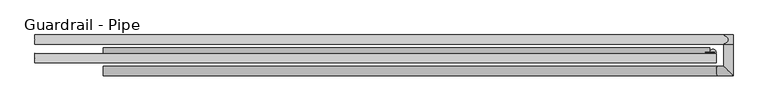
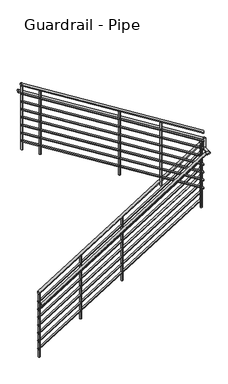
"""IFC4 building model written with IfcOpenShell, lengths in millimetres: railing geometry, Guardrail - Pipe."""

from ifc_helpers import new_model, si_unit, point, frame, frame_2d, origin, place, context, project, spatial, circle_curve, ellipse_curve, trimmed, segment, composite_curve, outline, extrude, faceted_brep, source, transform, mapped, element, save
from ifc_brep_helpers import plane_surface, cylinder_surface, advanced_brep


def guardrail_pipe_03ab10f1(model_context):
    return source(origin(), model_context, "Body", "SolidModel", [
        advanced_brep(
        [(-2631.8939612, 10554.0699505, 8533.7231361), (-2631.8939612, 10515.9699505, 8533.7231361), (-142.6939612, 10554.0699505, 10085.432227), (-142.6939612, 10515.9699505, 10085.432227)],
        [
            (0, 1, ellipse_curve(frame((-2631.8939612, 10535.0199505, 8533.7231361), z_axis=(-1.0, 0.0, 0.0), x_axis=(0.0, 0.0, -1.0)), 22.4482925, 19.05)),
            (1, 0, ellipse_curve(frame((-2631.8939612, 10535.0199505, 8533.7231361), z_axis=(-1.0, 0.0, 0.0), x_axis=(0.0, 0.0, -1.0)), 22.4482925, 19.05)),
            (2, 3, ellipse_curve(frame((-142.6939612, 10535.0199505, 10085.432227), z_axis=(1.0, 0.0, 0.0), x_axis=(0.0, 0.0, -1.0)), 22.4482925, 19.05)),
            (3, 2, ellipse_curve(frame((-142.6939612, 10535.0199505, 10085.432227), z_axis=(1.0, 0.0, 0.0), x_axis=(0.0, 0.0, -1.0)), 22.4482925, 19.05)),
            (0, 2),
            (3, 1),
        ],
        [
            plane_surface(frame((-2631.8939612, 10535.0199505, 8556.1714286), z_axis=(-1.0, 0.0, 0.0), x_axis=(0.0, 1.0, 0.0))),
            plane_surface(frame((-142.6939612, 10535.0199505, 10107.8805195), z_axis=(1.0, 0.0, 0.0), x_axis=(0.0, 1.0, 0.0))),
            cylinder_surface(frame((-2621.8163602, 10535.0199505, 8540.005277), z_axis=(-0.8486168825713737, 0.0, -0.5290079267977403), x_axis=(0.0, -1.0, 0.0)), 19.05),
        ],
        [
            (0, [[1, 2]]),
            (1, [[3, 4]]),
            (2, [[-1, 5, -4, 6]]),
            (2, [[-2, -6, -3, -5]]),
        ],
    ),
        advanced_brep(
        [(-161.7439612, 10535.0199505, 10104.6642857), (-123.6439612, 10535.0199505, 10104.6642857), (-161.7439612, 10536.659643, 10104.6642857), (-123.6439612, 10536.659643, 10104.6642857)],
        [
            (0, 1, circle_curve(frame((-142.6939612, 10535.0199505, 10104.6642857), z_axis=(0.0, -1.0, 0.0), x_axis=(1.0, 0.0, 0.0)), 19.05)),
            (1, 0, circle_curve(frame((-142.6939612, 10535.0199505, 10104.6642857), z_axis=(0.0, -1.0, 0.0), x_axis=(1.0, 0.0, 0.0)), 19.05)),
            (2, 3, circle_curve(frame((-142.6939612, 10536.659643, 10104.6642857), z_axis=(0.0, 1.0, 0.0), x_axis=(1.0, 0.0, 0.0)), 19.05)),
            (3, 2, circle_curve(frame((-142.6939612, 10536.659643, 10104.6642857), z_axis=(0.0, 1.0, 0.0), x_axis=(1.0, 0.0, 0.0)), 19.05)),
            (0, 2),
            (3, 1),
        ],
        [
            plane_surface(frame((-142.6939612, 10535.0199505, 10123.7142857), z_axis=(0.0, -1.0, 0.0), x_axis=(0.0, 0.0, 1.0))),
            plane_surface(frame((-142.6939612, 10536.659643, 10123.7142857), z_axis=(0.0, 1.0, 0.0), x_axis=(0.0, 0.0, 1.0))),
            cylinder_surface(frame((-142.6939612, 10535.0199505, 10104.6642857), z_axis=(0.0, -1.0, 0.0), x_axis=(1.0, 0.0, 0.0)), 19.05),
        ],
        [
            (0, [[1, 2]]),
            (1, [[3, 4]]),
            (2, [[-1, 5, -4, 6]]),
            (2, [[-2, -6, -3, -5]]),
        ],
    ),
        advanced_brep(
        [(-117.2939612, 10492.209643, 10275.4374218), (-117.2939612, 10530.309643, 10275.4374218), (-2911.2939612, 10492.209643, 12017.1517075), (-2911.2939612, 10530.309643, 12017.1517075)],
        [
            (0, 1, ellipse_curve(frame((-117.2939612, 10511.259643, 10275.4374218), z_axis=(1.0, 0.0, 0.0), x_axis=(0.0, 0.0, -1.0)), 22.4482925, 19.05)),
            (1, 0, ellipse_curve(frame((-117.2939612, 10511.259643, 10275.4374218), z_axis=(1.0, 0.0, 0.0), x_axis=(0.0, 0.0, -1.0)), 22.4482925, 19.05)),
            (2, 3, ellipse_curve(frame((-2911.2939612, 10511.259643, 12017.1517075), z_axis=(-1.0, 0.0, 0.0), x_axis=(0.0, 0.0, -1.0)), 22.4482925, 19.05)),
            (3, 2, ellipse_curve(frame((-2911.2939612, 10511.259643, 12017.1517075), z_axis=(-1.0, 0.0, 0.0), x_axis=(0.0, 0.0, -1.0)), 22.4482925, 19.05)),
            (0, 2),
            (3, 1),
        ],
        [
            plane_surface(frame((-117.2939612, 10511.259643, 10297.8857143), z_axis=(1.0, 0.0, 0.0), x_axis=(0.0, -1.0, 0.0))),
            plane_surface(frame((-2911.2939612, 10511.259643, 12039.6), z_axis=(-1.0, 0.0, 0.0), x_axis=(0.0, -1.0, 0.0))),
            cylinder_surface(frame((-127.3715622, 10511.259643, 10281.7195627), z_axis=(0.8486168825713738, 0.0, -0.5290079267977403), x_axis=(0.0, 1.0, 0.0)), 19.05),
        ],
        [
            (0, [[1, 2]]),
            (1, [[3, 4]]),
            (2, [[-1, 5, -4, 6]]),
            (2, [[-2, -6, -3, -5]]),
        ],
    ),
        advanced_brep(
        [(-2631.8939612, 10547.7199505, 8388.8059002), (-2631.8939612, 10522.3199505, 8388.8059002), (-142.6939612, 10547.7199505, 9940.5149911), (-142.6939612, 10522.3199505, 9940.5149911)],
        [
            (0, 1, ellipse_curve(frame((-2631.8939612, 10535.0199505, 8388.8059002), z_axis=(-1.0, 0.0, 0.0), x_axis=(0.0, 0.0, -1.0)), 14.9655283, 12.7)),
            (1, 0, ellipse_curve(frame((-2631.8939612, 10535.0199505, 8388.8059002), z_axis=(-1.0, 0.0, 0.0), x_axis=(0.0, 0.0, -1.0)), 14.9655283, 12.7)),
            (2, 3, ellipse_curve(frame((-142.6939612, 10535.0199505, 9940.5149911), z_axis=(1.0, 0.0, 0.0), x_axis=(0.0, 0.0, -1.0)), 14.9655283, 12.7)),
            (3, 2, ellipse_curve(frame((-142.6939612, 10535.0199505, 9940.5149911), z_axis=(1.0, 0.0, 0.0), x_axis=(0.0, 0.0, -1.0)), 14.9655283, 12.7)),
            (0, 2),
            (3, 1),
        ],
        [
            plane_surface(frame((-2631.8939612, 10535.0199505, 8403.7714286), z_axis=(-1.0, 0.0, 0.0), x_axis=(0.0, 1.0, 0.0))),
            plane_surface(frame((-142.6939612, 10535.0199505, 9955.4805195), z_axis=(1.0, 0.0, 0.0), x_axis=(0.0, 1.0, 0.0))),
            cylinder_surface(frame((-2625.1755605, 10535.0199505, 8392.9939942), z_axis=(-0.8486168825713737, 0.0, -0.5290079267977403), x_axis=(0.0, -1.0, 0.0)), 12.7),
        ],
        [
            (0, [[1, 2]]),
            (1, [[3, 4]]),
            (2, [[-1, 5, -4, 6]]),
            (2, [[-2, -6, -3, -5]]),
        ],
    ),
        advanced_brep(
        [(-155.3939612, 10535.0199505, 9958.6142857), (-129.9939612, 10535.0199505, 9958.6142857), (-155.3939612, 10536.659643, 9958.6142857), (-129.9939612, 10536.659643, 9958.6142857)],
        [
            (0, 1, circle_curve(frame((-142.6939612, 10535.0199505, 9958.6142857), z_axis=(0.0, -1.0, 0.0), x_axis=(1.0, 0.0, 0.0)), 12.7)),
            (1, 0, circle_curve(frame((-142.6939612, 10535.0199505, 9958.6142857), z_axis=(0.0, -1.0, 0.0), x_axis=(1.0, 0.0, 0.0)), 12.7)),
            (2, 3, circle_curve(frame((-142.6939612, 10536.659643, 9958.6142857), z_axis=(0.0, 1.0, 0.0), x_axis=(1.0, 0.0, 0.0)), 12.7)),
            (3, 2, circle_curve(frame((-142.6939612, 10536.659643, 9958.6142857), z_axis=(0.0, 1.0, 0.0), x_axis=(1.0, 0.0, 0.0)), 12.7)),
            (0, 2),
            (3, 1),
        ],
        [
            plane_surface(frame((-142.6939612, 10535.0199505, 9971.3142857), z_axis=(0.0, -1.0, 0.0), x_axis=(0.0, 0.0, 1.0))),
            plane_surface(frame((-142.6939612, 10536.659643, 9971.3142857), z_axis=(0.0, 1.0, 0.0), x_axis=(0.0, 0.0, 1.0))),
            cylinder_surface(frame((-142.6939612, 10535.0199505, 9958.6142857), z_axis=(0.0, -1.0, 0.0), x_axis=(1.0, 0.0, 0.0)), 12.7),
        ],
        [
            (0, [[1, 2]]),
            (1, [[3, 4]]),
            (2, [[-1, 5, -4, 6]]),
            (2, [[-2, -6, -3, -5]]),
        ],
    ),
        advanced_brep(
        [(-117.2939612, 10498.559643, 10130.520186), (-117.2939612, 10523.959643, 10130.520186), (-2911.2939612, 10498.559643, 11872.2344717), (-2911.2939612, 10523.959643, 11872.2344717)],
        [
            (0, 1, ellipse_curve(frame((-117.2939612, 10511.259643, 10130.520186), z_axis=(1.0, 0.0, 0.0), x_axis=(0.0, 0.0, -1.0)), 14.9655283, 12.7)),
            (1, 0, ellipse_curve(frame((-117.2939612, 10511.259643, 10130.520186), z_axis=(1.0, 0.0, 0.0), x_axis=(0.0, 0.0, -1.0)), 14.9655283, 12.7)),
            (2, 3, ellipse_curve(frame((-2911.2939612, 10511.259643, 11872.2344717), z_axis=(-1.0, 0.0, 0.0), x_axis=(0.0, 0.0, -1.0)), 14.9655283, 12.7)),
            (3, 2, ellipse_curve(frame((-2911.2939612, 10511.259643, 11872.2344717), z_axis=(-1.0, 0.0, 0.0), x_axis=(0.0, 0.0, -1.0)), 14.9655283, 12.7)),
            (0, 2),
            (3, 1),
        ],
        [
            plane_surface(frame((-117.2939612, 10511.259643, 10145.4857143), z_axis=(1.0, 0.0, 0.0), x_axis=(0.0, -1.0, 0.0))),
            plane_surface(frame((-2911.2939612, 10511.259643, 11887.2), z_axis=(-1.0, 0.0, 0.0), x_axis=(0.0, -1.0, 0.0))),
            cylinder_surface(frame((-124.0123619, 10511.259643, 10134.7082799), z_axis=(0.8486168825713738, 0.0, -0.5290079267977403), x_axis=(0.0, 1.0, 0.0)), 12.7),
        ],
        [
            (0, [[1, 2]]),
            (1, [[3, 4]]),
            (2, [[-1, 5, -4, 6]]),
            (2, [[-2, -6, -3, -5]]),
        ],
    ),
        advanced_brep(
        [(-2631.8939612, 10477.8699505, 8381.3231361), (-2631.8939612, 10439.7699505, 8381.3231361), (-111.8425336, 10477.8699505, 9952.2642857), (-111.8425336, 10439.7699505, 9952.2642857), (-85.5439612, 10477.8699505, 9952.2642857), (-47.4439612, 10439.7699505, 9952.2642857), (-85.5439612, 10587.459643, 9952.2642857), (-47.4439612, 10587.459643, 9952.2642857)],
        [
            (0, 1, ellipse_curve(frame((-2631.8939612, 10458.8199505, 8381.3231361), z_axis=(-1.0, 0.0, 0.0), x_axis=(0.0, 0.0, -1.0)), 22.4482925, 19.05)),
            (1, 0, ellipse_curve(frame((-2631.8939612, 10458.8199505, 8381.3231361), z_axis=(-1.0, 0.0, 0.0), x_axis=(0.0, 0.0, -1.0)), 22.4482925, 19.05)),
            (0, 2),
            (2, 3, ellipse_curve(frame((-111.8425336, 10458.8199505, 9952.2642857), z_axis=(-0.9614096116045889, 0.0, -0.2751209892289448), x_axis=(0.2751209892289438, 0.0, -0.9614096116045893)), 19.8146552, 19.05)),
            (3, 1),
            (3, 2, ellipse_curve(frame((-111.8425336, 10458.8199505, 9952.2642857), z_axis=(-0.9614096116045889, 0.0, -0.2751209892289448), x_axis=(0.2751209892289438, 0.0, -0.9614096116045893)), 19.8146552, 19.05)),
            (2, 4),
            (4, 5, ellipse_curve(frame((-66.4939612, 10458.8199505, 9952.2642857), z_axis=(-0.7071067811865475, -0.7071067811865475, 0.0), x_axis=(-0.7071067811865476, 0.7071067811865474, 0.0)), 26.9407684, 19.05)),
            (5, 3),
            (5, 4, ellipse_curve(frame((-66.4939612, 10458.8199505, 9952.2642857), z_axis=(-0.7071067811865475, -0.7071067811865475, 0.0), x_axis=(-0.7071067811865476, 0.7071067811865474, 0.0)), 26.9407684, 19.05)),
            (6, 7, circle_curve(frame((-66.4939612, 10587.459643, 9952.2642857), z_axis=(0.0, 1.0, 0.0), x_axis=(1.0, 0.0, 0.0)), 19.05)),
            (7, 6, circle_curve(frame((-66.4939612, 10587.459643, 9952.2642857), z_axis=(0.0, 1.0, 0.0), x_axis=(1.0, 0.0, 0.0)), 19.05)),
            (4, 6),
            (7, 5),
        ],
        [
            plane_surface(frame((-2631.8939612, 10458.8199505, 8403.7714286), z_axis=(-1.0, 0.0, 0.0), x_axis=(0.0, 1.0, 0.0))),
            cylinder_surface(frame((-2621.8163602, 10458.8199505, 8387.605277), z_axis=(-0.8486168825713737, 0.0, -0.5290079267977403), x_axis=(0.0, -1.0, 0.0)), 19.05),
            cylinder_surface(frame((-117.2939612, 10458.8199505, 9952.2642857), z_axis=(-1.0, 0.0, 0.0), x_axis=(0.0, -1.0, 0.0)), 19.05),
            plane_surface(frame((-66.4939612, 10587.459643, 9971.3142857), z_axis=(0.0, 1.0, 0.0), x_axis=(0.0, 0.0, 1.0))),
            cylinder_surface(frame((-66.4939612, 10458.8199505, 9952.2642857), z_axis=(0.0, -1.0, 0.0), x_axis=(1.0, 0.0, 0.0)), 19.05),
        ],
        [
            (0, [[1, 2]]),
            (1, [[-1, 3, 4, 5]]),
            (1, [[-2, -5, 6, -3]]),
            (2, [[-4, 7, 8, 9]]),
            (2, [[-6, -9, 10, -7]]),
            (3, [[11, 12]]),
            (4, [[-8, 13, -12, 14]]),
            (4, [[-10, -14, -11, -13]]),
        ],
    ),
        faceted_brep([(-85.5439612, 10606.509643, 9933.2142857), (-47.4439612, 10606.509643, 9933.2142857), (-47.4439612, 10568.409643, 9933.2142857), (-85.5439612, 10568.409643, 9933.2142857), (-85.5439612, 10606.509643, 10113.8181818), (-85.5439612, 10568.409643, 10113.8181818), (-47.4439612, 10568.409643, 10113.8181818), (-47.4439612, 10606.509643, 10113.8181818)], [[[0, 1, 2, 3]], [[4, 5, 6, 7]], [[1, 0, 4, 7]], [[2, 1, 7, 6]], [[3, 2, 6, 5]], [[0, 3, 5, 4]]]),
        advanced_brep(
        [(-66.4939612, 10568.409643, 10091.3698893), (-66.4939612, 10606.509643, 10091.3698893), (-2911.2939612, 10568.409643, 11864.7517075), (-2911.2939612, 10606.509643, 11864.7517075)],
        [
            (0, 1, ellipse_curve(frame((-66.4939612, 10587.459643, 10091.3698893), z_axis=(1.0, 0.0, 0.0), x_axis=(0.0, 0.0, -1.0)), 22.4482925, 19.05)),
            (1, 0, ellipse_curve(frame((-66.4939612, 10587.459643, 10091.3698893), z_axis=(1.0, 0.0, 0.0), x_axis=(0.0, 0.0, -1.0)), 22.4482925, 19.05)),
            (2, 3, ellipse_curve(frame((-2911.2939612, 10587.459643, 11864.7517075), z_axis=(-1.0, 0.0, 0.0), x_axis=(0.0, 0.0, -1.0)), 22.4482925, 19.05)),
            (3, 2, ellipse_curve(frame((-2911.2939612, 10587.459643, 11864.7517075), z_axis=(-1.0, 0.0, 0.0), x_axis=(0.0, 0.0, -1.0)), 22.4482925, 19.05)),
            (0, 2),
            (3, 1),
        ],
        [
            plane_surface(frame((-66.4939612, 10587.459643, 10113.8181818), z_axis=(1.0, 0.0, 0.0), x_axis=(0.0, -1.0, 0.0))),
            plane_surface(frame((-2911.2939612, 10587.459643, 11887.2), z_axis=(-1.0, 0.0, 0.0), x_axis=(0.0, -1.0, 0.0))),
            cylinder_surface(frame((-76.5715622, 10587.459643, 10097.6520302), z_axis=(0.8486168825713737, 0.0, -0.5290079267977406), x_axis=(0.0, 1.0, 0.0)), 19.05),
        ],
        [
            (0, [[1, 2]]),
            (1, [[3, 4]]),
            (2, [[-1, 5, -4, 6]]),
            (2, [[-2, -6, -3, -5]]),
        ],
    ),
        advanced_brep(
        [(-2631.8939612, 10547.7199505, 8261.8059002), (-2631.8939612, 10522.3199505, 8261.8059002), (-142.6939612, 10547.7199505, 9813.5149911), (-142.6939612, 10522.3199505, 9813.5149911)],
        [
            (0, 1, ellipse_curve(frame((-2631.8939612, 10535.0199505, 8261.8059002), z_axis=(-1.0, 0.0, 0.0), x_axis=(0.0, 0.0, -1.0)), 14.9655283, 12.7)),
            (1, 0, ellipse_curve(frame((-2631.8939612, 10535.0199505, 8261.8059002), z_axis=(-1.0, 0.0, 0.0), x_axis=(0.0, 0.0, -1.0)), 14.9655283, 12.7)),
            (2, 3, ellipse_curve(frame((-142.6939612, 10535.0199505, 9813.5149911), z_axis=(1.0, 0.0, 0.0), x_axis=(0.0, 0.0, -1.0)), 14.9655283, 12.7)),
            (3, 2, ellipse_curve(frame((-142.6939612, 10535.0199505, 9813.5149911), z_axis=(1.0, 0.0, 0.0), x_axis=(0.0, 0.0, -1.0)), 14.9655283, 12.7)),
            (0, 2),
            (3, 1),
        ],
        [
            plane_surface(frame((-2631.8939612, 10535.0199505, 8276.7714286), z_axis=(-1.0, 0.0, 0.0), x_axis=(0.0, 1.0, 0.0))),
            plane_surface(frame((-142.6939612, 10535.0199505, 9828.4805195), z_axis=(1.0, 0.0, 0.0), x_axis=(0.0, 1.0, 0.0))),
            cylinder_surface(frame((-2625.1755605, 10535.0199505, 8265.9939942), z_axis=(-0.8486168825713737, 0.0, -0.5290079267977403), x_axis=(0.0, -1.0, 0.0)), 12.7),
        ],
        [
            (0, [[1, 2]]),
            (1, [[3, 4]]),
            (2, [[-1, 5, -4, 6]]),
            (2, [[-2, -6, -3, -5]]),
        ],
    ),
        advanced_brep(
        [(-155.3939612, 10535.0199505, 9831.6142857), (-129.9939612, 10535.0199505, 9831.6142857), (-155.3939612, 10536.659643, 9831.6142857), (-129.9939612, 10536.659643, 9831.6142857)],
        [
            (0, 1, circle_curve(frame((-142.6939612, 10535.0199505, 9831.6142857), z_axis=(0.0, -1.0, 0.0), x_axis=(1.0, 0.0, 0.0)), 12.7)),
            (1, 0, circle_curve(frame((-142.6939612, 10535.0199505, 9831.6142857), z_axis=(0.0, -1.0, 0.0), x_axis=(1.0, 0.0, 0.0)), 12.7)),
            (2, 3, circle_curve(frame((-142.6939612, 10536.659643, 9831.6142857), z_axis=(0.0, 1.0, 0.0), x_axis=(1.0, 0.0, 0.0)), 12.7)),
            (3, 2, circle_curve(frame((-142.6939612, 10536.659643, 9831.6142857), z_axis=(0.0, 1.0, 0.0), x_axis=(1.0, 0.0, 0.0)), 12.7)),
            (0, 2),
            (3, 1),
        ],
        [
            plane_surface(frame((-142.6939612, 10535.0199505, 9844.3142857), z_axis=(0.0, -1.0, 0.0), x_axis=(0.0, 0.0, 1.0))),
            plane_surface(frame((-142.6939612, 10536.659643, 9844.3142857), z_axis=(0.0, 1.0, 0.0), x_axis=(0.0, 0.0, 1.0))),
            cylinder_surface(frame((-142.6939612, 10535.0199505, 9831.6142857), z_axis=(0.0, -1.0, 0.0), x_axis=(1.0, 0.0, 0.0)), 12.7),
        ],
        [
            (0, [[1, 2]]),
            (1, [[3, 4]]),
            (2, [[-1, 5, -4, 6]]),
            (2, [[-2, -6, -3, -5]]),
        ],
    ),
        advanced_brep(
        [(-117.2939612, 10498.559643, 10003.520186), (-117.2939612, 10523.959643, 10003.520186), (-2911.2939612, 10498.559643, 11745.2344717), (-2911.2939612, 10523.959643, 11745.2344717)],
        [
            (0, 1, ellipse_curve(frame((-117.2939612, 10511.259643, 10003.520186), z_axis=(1.0, 0.0, 0.0), x_axis=(0.0, 0.0, -1.0)), 14.9655283, 12.7)),
            (1, 0, ellipse_curve(frame((-117.2939612, 10511.259643, 10003.520186), z_axis=(1.0, 0.0, 0.0), x_axis=(0.0, 0.0, -1.0)), 14.9655283, 12.7)),
            (2, 3, ellipse_curve(frame((-2911.2939612, 10511.259643, 11745.2344717), z_axis=(-1.0, 0.0, 0.0), x_axis=(0.0, 0.0, -1.0)), 14.9655283, 12.7)),
            (3, 2, ellipse_curve(frame((-2911.2939612, 10511.259643, 11745.2344717), z_axis=(-1.0, 0.0, 0.0), x_axis=(0.0, 0.0, -1.0)), 14.9655283, 12.7)),
            (0, 2),
            (3, 1),
        ],
        [
            plane_surface(frame((-117.2939612, 10511.259643, 10018.4857143), z_axis=(1.0, 0.0, 0.0), x_axis=(0.0, -1.0, 0.0))),
            plane_surface(frame((-2911.2939612, 10511.259643, 11760.2), z_axis=(-1.0, 0.0, 0.0), x_axis=(0.0, -1.0, 0.0))),
            cylinder_surface(frame((-124.0123619, 10511.259643, 10007.7082799), z_axis=(0.8486168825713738, 0.0, -0.5290079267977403), x_axis=(0.0, 1.0, 0.0)), 12.7),
        ],
        [
            (0, [[1, 2]]),
            (1, [[3, 4]]),
            (2, [[-1, 5, -4, 6]]),
            (2, [[-2, -6, -3, -5]]),
        ],
    ),
        advanced_brep(
        [(-2631.8939612, 10547.7199505, 8134.8059002), (-2631.8939612, 10522.3199505, 8134.8059002), (-142.6939612, 10547.7199505, 9686.5149911), (-142.6939612, 10522.3199505, 9686.5149911)],
        [
            (0, 1, ellipse_curve(frame((-2631.8939612, 10535.0199505, 8134.8059002), z_axis=(-1.0, 0.0, 0.0), x_axis=(0.0, 0.0, -1.0)), 14.9655283, 12.7)),
            (1, 0, ellipse_curve(frame((-2631.8939612, 10535.0199505, 8134.8059002), z_axis=(-1.0, 0.0, 0.0), x_axis=(0.0, 0.0, -1.0)), 14.9655283, 12.7)),
            (2, 3, ellipse_curve(frame((-142.6939612, 10535.0199505, 9686.5149911), z_axis=(1.0, 0.0, 0.0), x_axis=(0.0, 0.0, -1.0)), 14.9655283, 12.7)),
            (3, 2, ellipse_curve(frame((-142.6939612, 10535.0199505, 9686.5149911), z_axis=(1.0, 0.0, 0.0), x_axis=(0.0, 0.0, -1.0)), 14.9655283, 12.7)),
            (0, 2),
            (3, 1),
        ],
        [
            plane_surface(frame((-2631.8939612, 10535.0199505, 8149.7714286), z_axis=(-1.0, 0.0, 0.0), x_axis=(0.0, 1.0, 0.0))),
            plane_surface(frame((-142.6939612, 10535.0199505, 9701.4805195), z_axis=(1.0, 0.0, 0.0), x_axis=(0.0, 1.0, 0.0))),
            cylinder_surface(frame((-2625.1755605, 10535.0199505, 8138.9939942), z_axis=(-0.8486168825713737, 0.0, -0.5290079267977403), x_axis=(0.0, -1.0, 0.0)), 12.7),
        ],
        [
            (0, [[1, 2]]),
            (1, [[3, 4]]),
            (2, [[-1, 5, -4, 6]]),
            (2, [[-2, -6, -3, -5]]),
        ],
    ),
        advanced_brep(
        [(-155.3939612, 10535.0199505, 9704.6142857), (-129.9939612, 10535.0199505, 9704.6142857), (-155.3939612, 10536.659643, 9704.6142857), (-129.9939612, 10536.659643, 9704.6142857)],
        [
            (0, 1, circle_curve(frame((-142.6939612, 10535.0199505, 9704.6142857), z_axis=(0.0, -1.0, 0.0), x_axis=(1.0, 0.0, 0.0)), 12.7)),
            (1, 0, circle_curve(frame((-142.6939612, 10535.0199505, 9704.6142857), z_axis=(0.0, -1.0, 0.0), x_axis=(1.0, 0.0, 0.0)), 12.7)),
            (2, 3, circle_curve(frame((-142.6939612, 10536.659643, 9704.6142857), z_axis=(0.0, 1.0, 0.0), x_axis=(1.0, 0.0, 0.0)), 12.7)),
            (3, 2, circle_curve(frame((-142.6939612, 10536.659643, 9704.6142857), z_axis=(0.0, 1.0, 0.0), x_axis=(1.0, 0.0, 0.0)), 12.7)),
            (0, 2),
            (3, 1),
        ],
        [
            plane_surface(frame((-142.6939612, 10535.0199505, 9717.3142857), z_axis=(0.0, -1.0, 0.0), x_axis=(0.0, 0.0, 1.0))),
            plane_surface(frame((-142.6939612, 10536.659643, 9717.3142857), z_axis=(0.0, 1.0, 0.0), x_axis=(0.0, 0.0, 1.0))),
            cylinder_surface(frame((-142.6939612, 10535.0199505, 9704.6142857), z_axis=(0.0, -1.0, 0.0), x_axis=(1.0, 0.0, 0.0)), 12.7),
        ],
        [
            (0, [[1, 2]]),
            (1, [[3, 4]]),
            (2, [[-1, 5, -4, 6]]),
            (2, [[-2, -6, -3, -5]]),
        ],
    ),
        advanced_brep(
        [(-117.2939612, 10498.559643, 9876.520186), (-117.2939612, 10523.959643, 9876.520186), (-2911.2939612, 10498.559643, 11618.2344717), (-2911.2939612, 10523.959643, 11618.2344717)],
        [
            (0, 1, ellipse_curve(frame((-117.2939612, 10511.259643, 9876.520186), z_axis=(1.0, 0.0, 0.0), x_axis=(0.0, 0.0, -1.0)), 14.9655283, 12.7)),
            (1, 0, ellipse_curve(frame((-117.2939612, 10511.259643, 9876.520186), z_axis=(1.0, 0.0, 0.0), x_axis=(0.0, 0.0, -1.0)), 14.9655283, 12.7)),
            (2, 3, ellipse_curve(frame((-2911.2939612, 10511.259643, 11618.2344717), z_axis=(-1.0, 0.0, 0.0), x_axis=(0.0, 0.0, -1.0)), 14.9655283, 12.7)),
            (3, 2, ellipse_curve(frame((-2911.2939612, 10511.259643, 11618.2344717), z_axis=(-1.0, 0.0, 0.0), x_axis=(0.0, 0.0, -1.0)), 14.9655283, 12.7)),
            (0, 2),
            (3, 1),
        ],
        [
            plane_surface(frame((-117.2939612, 10511.259643, 9891.4857143), z_axis=(1.0, 0.0, 0.0), x_axis=(0.0, -1.0, 0.0))),
            plane_surface(frame((-2911.2939612, 10511.259643, 11633.2), z_axis=(-1.0, 0.0, 0.0), x_axis=(0.0, -1.0, 0.0))),
            cylinder_surface(frame((-124.0123619, 10511.259643, 9880.7082799), z_axis=(0.8486168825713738, 0.0, -0.5290079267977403), x_axis=(0.0, 1.0, 0.0)), 12.7),
        ],
        [
            (0, [[1, 2]]),
            (1, [[3, 4]]),
            (2, [[-1, 5, -4, 6]]),
            (2, [[-2, -6, -3, -5]]),
        ],
    ),
        advanced_brep(
        [(-2631.8939612, 10547.7199505, 8007.8059002), (-2631.8939612, 10522.3199505, 8007.8059002), (-142.6939612, 10547.7199505, 9559.5149911), (-142.6939612, 10522.3199505, 9559.5149911)],
        [
            (0, 1, ellipse_curve(frame((-2631.8939612, 10535.0199505, 8007.8059002), z_axis=(-1.0, 0.0, 0.0), x_axis=(0.0, 0.0, -1.0)), 14.9655283, 12.7)),
            (1, 0, ellipse_curve(frame((-2631.8939612, 10535.0199505, 8007.8059002), z_axis=(-1.0, 0.0, 0.0), x_axis=(0.0, 0.0, -1.0)), 14.9655283, 12.7)),
            (2, 3, ellipse_curve(frame((-142.6939612, 10535.0199505, 9559.5149911), z_axis=(1.0, 0.0, 0.0), x_axis=(0.0, 0.0, -1.0)), 14.9655283, 12.7)),
            (3, 2, ellipse_curve(frame((-142.6939612, 10535.0199505, 9559.5149911), z_axis=(1.0, 0.0, 0.0), x_axis=(0.0, 0.0, -1.0)), 14.9655283, 12.7)),
            (0, 2),
            (3, 1),
        ],
        [
            plane_surface(frame((-2631.8939612, 10535.0199505, 8022.7714286), z_axis=(-1.0, 0.0, 0.0), x_axis=(0.0, 1.0, 0.0))),
            plane_surface(frame((-142.6939612, 10535.0199505, 9574.4805195), z_axis=(1.0, 0.0, 0.0), x_axis=(0.0, 1.0, 0.0))),
            cylinder_surface(frame((-2625.1755605, 10535.0199505, 8011.9939942), z_axis=(-0.8486168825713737, 0.0, -0.5290079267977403), x_axis=(0.0, -1.0, 0.0)), 12.7),
        ],
        [
            (0, [[1, 2]]),
            (1, [[3, 4]]),
            (2, [[-1, 5, -4, 6]]),
            (2, [[-2, -6, -3, -5]]),
        ],
    ),
        advanced_brep(
        [(-155.3939612, 10535.0199505, 9577.6142857), (-129.9939612, 10535.0199505, 9577.6142857), (-155.3939612, 10536.659643, 9577.6142857), (-129.9939612, 10536.659643, 9577.6142857)],
        [
            (0, 1, circle_curve(frame((-142.6939612, 10535.0199505, 9577.6142857), z_axis=(0.0, -1.0, 0.0), x_axis=(1.0, 0.0, 0.0)), 12.7)),
            (1, 0, circle_curve(frame((-142.6939612, 10535.0199505, 9577.6142857), z_axis=(0.0, -1.0, 0.0), x_axis=(1.0, 0.0, 0.0)), 12.7)),
            (2, 3, circle_curve(frame((-142.6939612, 10536.659643, 9577.6142857), z_axis=(0.0, 1.0, 0.0), x_axis=(1.0, 0.0, 0.0)), 12.7)),
            (3, 2, circle_curve(frame((-142.6939612, 10536.659643, 9577.6142857), z_axis=(0.0, 1.0, 0.0), x_axis=(1.0, 0.0, 0.0)), 12.7)),
            (0, 2),
            (3, 1),
        ],
        [
            plane_surface(frame((-142.6939612, 10535.0199505, 9590.3142857), z_axis=(0.0, -1.0, 0.0), x_axis=(0.0, 0.0, 1.0))),
            plane_surface(frame((-142.6939612, 10536.659643, 9590.3142857), z_axis=(0.0, 1.0, 0.0), x_axis=(0.0, 0.0, 1.0))),
            cylinder_surface(frame((-142.6939612, 10535.0199505, 9577.6142857), z_axis=(0.0, -1.0, 0.0), x_axis=(1.0, 0.0, 0.0)), 12.7),
        ],
        [
            (0, [[1, 2]]),
            (1, [[3, 4]]),
            (2, [[-1, 5, -4, 6]]),
            (2, [[-2, -6, -3, -5]]),
        ],
    ),
        advanced_brep(
        [(-117.2939612, 10498.559643, 9749.520186), (-117.2939612, 10523.959643, 9749.520186), (-2911.2939612, 10498.559643, 11491.2344717), (-2911.2939612, 10523.959643, 11491.2344717)],
        [
            (0, 1, ellipse_curve(frame((-117.2939612, 10511.259643, 9749.520186), z_axis=(1.0, 0.0, 0.0), x_axis=(0.0, 0.0, -1.0)), 14.9655283, 12.7)),
            (1, 0, ellipse_curve(frame((-117.2939612, 10511.259643, 9749.520186), z_axis=(1.0, 0.0, 0.0), x_axis=(0.0, 0.0, -1.0)), 14.9655283, 12.7)),
            (2, 3, ellipse_curve(frame((-2911.2939612, 10511.259643, 11491.2344717), z_axis=(-1.0, 0.0, 0.0), x_axis=(0.0, 0.0, -1.0)), 14.9655283, 12.7)),
            (3, 2, ellipse_curve(frame((-2911.2939612, 10511.259643, 11491.2344717), z_axis=(-1.0, 0.0, 0.0), x_axis=(0.0, 0.0, -1.0)), 14.9655283, 12.7)),
            (0, 2),
            (3, 1),
        ],
        [
            plane_surface(frame((-117.2939612, 10511.259643, 9764.4857143), z_axis=(1.0, 0.0, 0.0), x_axis=(0.0, -1.0, 0.0))),
            plane_surface(frame((-2911.2939612, 10511.259643, 11506.2), z_axis=(-1.0, 0.0, 0.0), x_axis=(0.0, -1.0, 0.0))),
            cylinder_surface(frame((-124.0123619, 10511.259643, 9753.7082799), z_axis=(0.8486168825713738, 0.0, -0.5290079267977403), x_axis=(0.0, 1.0, 0.0)), 12.7),
        ],
        [
            (0, [[1, 2]]),
            (1, [[3, 4]]),
            (2, [[-1, 5, -4, 6]]),
            (2, [[-2, -6, -3, -5]]),
        ],
    ),
        advanced_brep(
        [(-2631.8939612, 10547.7199505, 7880.8059002), (-2631.8939612, 10522.3199505, 7880.8059002), (-142.6939612, 10547.7199505, 9432.5149911), (-142.6939612, 10522.3199505, 9432.5149911)],
        [
            (0, 1, ellipse_curve(frame((-2631.8939612, 10535.0199505, 7880.8059002), z_axis=(-1.0, 0.0, 0.0), x_axis=(0.0, 0.0, -1.0)), 14.9655283, 12.7)),
            (1, 0, ellipse_curve(frame((-2631.8939612, 10535.0199505, 7880.8059002), z_axis=(-1.0, 0.0, 0.0), x_axis=(0.0, 0.0, -1.0)), 14.9655283, 12.7)),
            (2, 3, ellipse_curve(frame((-142.6939612, 10535.0199505, 9432.5149911), z_axis=(1.0, 0.0, 0.0), x_axis=(0.0, 0.0, -1.0)), 14.9655283, 12.7)),
            (3, 2, ellipse_curve(frame((-142.6939612, 10535.0199505, 9432.5149911), z_axis=(1.0, 0.0, 0.0), x_axis=(0.0, 0.0, -1.0)), 14.9655283, 12.7)),
            (0, 2),
            (3, 1),
        ],
        [
            plane_surface(frame((-2631.8939612, 10535.0199505, 7895.7714286), z_axis=(-1.0, 0.0, 0.0), x_axis=(0.0, 1.0, 0.0))),
            plane_surface(frame((-142.6939612, 10535.0199505, 9447.4805195), z_axis=(1.0, 0.0, 0.0), x_axis=(0.0, 1.0, 0.0))),
            cylinder_surface(frame((-2625.1755605, 10535.0199505, 7884.9939942), z_axis=(-0.8486168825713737, 0.0, -0.5290079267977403), x_axis=(0.0, -1.0, 0.0)), 12.7),
        ],
        [
            (0, [[1, 2]]),
            (1, [[3, 4]]),
            (2, [[-1, 5, -4, 6]]),
            (2, [[-2, -6, -3, -5]]),
        ],
    ),
        advanced_brep(
        [(-155.3939612, 10535.0199505, 9450.6142857), (-129.9939612, 10535.0199505, 9450.6142857), (-155.3939612, 10536.659643, 9450.6142857), (-129.9939612, 10536.659643, 9450.6142857)],
        [
            (0, 1, circle_curve(frame((-142.6939612, 10535.0199505, 9450.6142857), z_axis=(0.0, -1.0, 0.0), x_axis=(1.0, 0.0, 0.0)), 12.7)),
            (1, 0, circle_curve(frame((-142.6939612, 10535.0199505, 9450.6142857), z_axis=(0.0, -1.0, 0.0), x_axis=(1.0, 0.0, 0.0)), 12.7)),
            (2, 3, circle_curve(frame((-142.6939612, 10536.659643, 9450.6142857), z_axis=(0.0, 1.0, 0.0), x_axis=(1.0, 0.0, 0.0)), 12.7)),
            (3, 2, circle_curve(frame((-142.6939612, 10536.659643, 9450.6142857), z_axis=(0.0, 1.0, 0.0), x_axis=(1.0, 0.0, 0.0)), 12.7)),
            (0, 2),
            (3, 1),
        ],
        [
            plane_surface(frame((-142.6939612, 10535.0199505, 9463.3142857), z_axis=(0.0, -1.0, 0.0), x_axis=(0.0, 0.0, 1.0))),
            plane_surface(frame((-142.6939612, 10536.659643, 9463.3142857), z_axis=(0.0, 1.0, 0.0), x_axis=(0.0, 0.0, 1.0))),
            cylinder_surface(frame((-142.6939612, 10535.0199505, 9450.6142857), z_axis=(0.0, -1.0, 0.0), x_axis=(1.0, 0.0, 0.0)), 12.7),
        ],
        [
            (0, [[1, 2]]),
            (1, [[3, 4]]),
            (2, [[-1, 5, -4, 6]]),
            (2, [[-2, -6, -3, -5]]),
        ],
    ),
        advanced_brep(
        [(-117.2939612, 10498.559643, 9622.520186), (-117.2939612, 10523.959643, 9622.520186), (-2911.2939612, 10498.559643, 11364.2344717), (-2911.2939612, 10523.959643, 11364.2344717)],
        [
            (0, 1, ellipse_curve(frame((-117.2939612, 10511.259643, 9622.520186), z_axis=(1.0, 0.0, 0.0), x_axis=(0.0, 0.0, -1.0)), 14.9655283, 12.7)),
            (1, 0, ellipse_curve(frame((-117.2939612, 10511.259643, 9622.520186), z_axis=(1.0, 0.0, 0.0), x_axis=(0.0, 0.0, -1.0)), 14.9655283, 12.7)),
            (2, 3, ellipse_curve(frame((-2911.2939612, 10511.259643, 11364.2344717), z_axis=(-1.0, 0.0, 0.0), x_axis=(0.0, 0.0, -1.0)), 14.9655283, 12.7)),
            (3, 2, ellipse_curve(frame((-2911.2939612, 10511.259643, 11364.2344717), z_axis=(-1.0, 0.0, 0.0), x_axis=(0.0, 0.0, -1.0)), 14.9655283, 12.7)),
            (0, 2),
            (3, 1),
        ],
        [
            plane_surface(frame((-117.2939612, 10511.259643, 9637.4857143), z_axis=(1.0, 0.0, 0.0), x_axis=(0.0, -1.0, 0.0))),
            plane_surface(frame((-2911.2939612, 10511.259643, 11379.2), z_axis=(-1.0, 0.0, 0.0), x_axis=(0.0, -1.0, 0.0))),
            cylinder_surface(frame((-124.0123619, 10511.259643, 9626.7082799), z_axis=(0.8486168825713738, 0.0, -0.5290079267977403), x_axis=(0.0, 1.0, 0.0)), 12.7),
        ],
        [
            (0, [[1, 2]]),
            (1, [[3, 4]]),
            (2, [[-1, 5, -4, 6]]),
            (2, [[-2, -6, -3, -5]]),
        ],
    ),
        advanced_brep(
        [(-2631.8939612, 10547.7199505, 7753.8059002), (-2631.8939612, 10522.3199505, 7753.8059002), (-142.6939612, 10547.7199505, 9305.5149911), (-142.6939612, 10522.3199505, 9305.5149911)],
        [
            (0, 1, ellipse_curve(frame((-2631.8939612, 10535.0199505, 7753.8059002), z_axis=(-1.0, 0.0, 0.0), x_axis=(0.0, 0.0, -1.0)), 14.9655283, 12.7)),
            (1, 0, ellipse_curve(frame((-2631.8939612, 10535.0199505, 7753.8059002), z_axis=(-1.0, 0.0, 0.0), x_axis=(0.0, 0.0, -1.0)), 14.9655283, 12.7)),
            (2, 3, ellipse_curve(frame((-142.6939612, 10535.0199505, 9305.5149911), z_axis=(1.0, 0.0, 0.0), x_axis=(0.0, 0.0, -1.0)), 14.9655283, 12.7)),
            (3, 2, ellipse_curve(frame((-142.6939612, 10535.0199505, 9305.5149911), z_axis=(1.0, 0.0, 0.0), x_axis=(0.0, 0.0, -1.0)), 14.9655283, 12.7)),
            (0, 2),
            (3, 1),
        ],
        [
            plane_surface(frame((-2631.8939612, 10535.0199505, 7768.7714286), z_axis=(-1.0, 0.0, 0.0), x_axis=(0.0, 1.0, 0.0))),
            plane_surface(frame((-142.6939612, 10535.0199505, 9320.4805195), z_axis=(1.0, 0.0, 0.0), x_axis=(0.0, 1.0, 0.0))),
            cylinder_surface(frame((-2625.1755605, 10535.0199505, 7757.9939942), z_axis=(-0.8486168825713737, 0.0, -0.5290079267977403), x_axis=(0.0, -1.0, 0.0)), 12.7),
        ],
        [
            (0, [[1, 2]]),
            (1, [[3, 4]]),
            (2, [[-1, 5, -4, 6]]),
            (2, [[-2, -6, -3, -5]]),
        ],
    ),
        advanced_brep(
        [(-155.3939612, 10535.0199505, 9323.6142857), (-129.9939612, 10535.0199505, 9323.6142857), (-155.3939612, 10536.659643, 9323.6142857), (-129.9939612, 10536.659643, 9323.6142857)],
        [
            (0, 1, circle_curve(frame((-142.6939612, 10535.0199505, 9323.6142857), z_axis=(0.0, -1.0, 0.0), x_axis=(1.0, 0.0, 0.0)), 12.7)),
            (1, 0, circle_curve(frame((-142.6939612, 10535.0199505, 9323.6142857), z_axis=(0.0, -1.0, 0.0), x_axis=(1.0, 0.0, 0.0)), 12.7)),
            (2, 3, circle_curve(frame((-142.6939612, 10536.659643, 9323.6142857), z_axis=(0.0, 1.0, 0.0), x_axis=(1.0, 0.0, 0.0)), 12.7)),
            (3, 2, circle_curve(frame((-142.6939612, 10536.659643, 9323.6142857), z_axis=(0.0, 1.0, 0.0), x_axis=(1.0, 0.0, 0.0)), 12.7)),
            (0, 2),
            (3, 1),
        ],
        [
            plane_surface(frame((-142.6939612, 10535.0199505, 9336.3142857), z_axis=(0.0, -1.0, 0.0), x_axis=(0.0, 0.0, 1.0))),
            plane_surface(frame((-142.6939612, 10536.659643, 9336.3142857), z_axis=(0.0, 1.0, 0.0), x_axis=(0.0, 0.0, 1.0))),
            cylinder_surface(frame((-142.6939612, 10535.0199505, 9323.6142857), z_axis=(0.0, -1.0, 0.0), x_axis=(1.0, 0.0, 0.0)), 12.7),
        ],
        [
            (0, [[1, 2]]),
            (1, [[3, 4]]),
            (2, [[-1, 5, -4, 6]]),
            (2, [[-2, -6, -3, -5]]),
        ],
    ),
        advanced_brep(
        [(-117.2939612, 10498.559643, 9495.520186), (-117.2939612, 10523.959643, 9495.520186), (-2911.2939612, 10498.559643, 11237.2344717), (-2911.2939612, 10523.959643, 11237.2344717)],
        [
            (0, 1, ellipse_curve(frame((-117.2939612, 10511.259643, 9495.520186), z_axis=(1.0, 0.0, 0.0), x_axis=(0.0, 0.0, -1.0)), 14.9655283, 12.7)),
            (1, 0, ellipse_curve(frame((-117.2939612, 10511.259643, 9495.520186), z_axis=(1.0, 0.0, 0.0), x_axis=(0.0, 0.0, -1.0)), 14.9655283, 12.7)),
            (2, 3, ellipse_curve(frame((-2911.2939612, 10511.259643, 11237.2344717), z_axis=(-1.0, 0.0, 0.0), x_axis=(0.0, 0.0, -1.0)), 14.9655283, 12.7)),
            (3, 2, ellipse_curve(frame((-2911.2939612, 10511.259643, 11237.2344717), z_axis=(-1.0, 0.0, 0.0), x_axis=(0.0, 0.0, -1.0)), 14.9655283, 12.7)),
            (0, 2),
            (3, 1),
        ],
        [
            plane_surface(frame((-117.2939612, 10511.259643, 9510.4857143), z_axis=(1.0, 0.0, 0.0), x_axis=(0.0, -1.0, 0.0))),
            plane_surface(frame((-2911.2939612, 10511.259643, 11252.2), z_axis=(-1.0, 0.0, 0.0), x_axis=(0.0, -1.0, 0.0))),
            cylinder_surface(frame((-124.0123619, 10511.259643, 9499.7082799), z_axis=(0.8486168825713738, 0.0, -0.5290079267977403), x_axis=(0.0, 1.0, 0.0)), 12.7),
        ],
        [
            (0, [[1, 2]]),
            (1, [[3, 4]]),
            (2, [[-1, 5, -4, 6]]),
            (2, [[-2, -6, -3, -5]]),
        ],
    ),
        advanced_brep(
        [(-2631.8939612, 10547.7199505, 7626.8059002), (-2631.8939612, 10522.3199505, 7626.8059002), (-142.6939612, 10547.7199505, 9178.5149911), (-142.6939612, 10522.3199505, 9178.5149911)],
        [
            (0, 1, ellipse_curve(frame((-2631.8939612, 10535.0199505, 7626.8059002), z_axis=(-1.0, 0.0, 0.0), x_axis=(0.0, 0.0, -1.0)), 14.9655283, 12.7)),
            (1, 0, ellipse_curve(frame((-2631.8939612, 10535.0199505, 7626.8059002), z_axis=(-1.0, 0.0, 0.0), x_axis=(0.0, 0.0, -1.0)), 14.9655283, 12.7)),
            (2, 3, ellipse_curve(frame((-142.6939612, 10535.0199505, 9178.5149911), z_axis=(1.0, 0.0, 0.0), x_axis=(0.0, 0.0, -1.0)), 14.9655283, 12.7)),
            (3, 2, ellipse_curve(frame((-142.6939612, 10535.0199505, 9178.5149911), z_axis=(1.0, 0.0, 0.0), x_axis=(0.0, 0.0, -1.0)), 14.9655283, 12.7)),
            (0, 2),
            (3, 1),
        ],
        [
            plane_surface(frame((-2631.8939612, 10535.0199505, 7641.7714286), z_axis=(-1.0, 0.0, 0.0), x_axis=(0.0, 1.0, 0.0))),
            plane_surface(frame((-142.6939612, 10535.0199505, 9193.4805195), z_axis=(1.0, 0.0, 0.0), x_axis=(0.0, 1.0, 0.0))),
            cylinder_surface(frame((-2625.1755605, 10535.0199505, 7630.9939942), z_axis=(-0.8486168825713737, 0.0, -0.5290079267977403), x_axis=(0.0, -1.0, 0.0)), 12.7),
        ],
        [
            (0, [[1, 2]]),
            (1, [[3, 4]]),
            (2, [[-1, 5, -4, 6]]),
            (2, [[-2, -6, -3, -5]]),
        ],
    ),
        advanced_brep(
        [(-155.3939612, 10535.0199505, 9196.6142857), (-129.9939612, 10535.0199505, 9196.6142857), (-155.3939612, 10536.659643, 9196.6142857), (-129.9939612, 10536.659643, 9196.6142857)],
        [
            (0, 1, circle_curve(frame((-142.6939612, 10535.0199505, 9196.6142857), z_axis=(0.0, -1.0, 0.0), x_axis=(1.0, 0.0, 0.0)), 12.7)),
            (1, 0, circle_curve(frame((-142.6939612, 10535.0199505, 9196.6142857), z_axis=(0.0, -1.0, 0.0), x_axis=(1.0, 0.0, 0.0)), 12.7)),
            (2, 3, circle_curve(frame((-142.6939612, 10536.659643, 9196.6142857), z_axis=(0.0, 1.0, 0.0), x_axis=(1.0, 0.0, 0.0)), 12.7)),
            (3, 2, circle_curve(frame((-142.6939612, 10536.659643, 9196.6142857), z_axis=(0.0, 1.0, 0.0), x_axis=(1.0, 0.0, 0.0)), 12.7)),
            (0, 2),
            (3, 1),
        ],
        [
            plane_surface(frame((-142.6939612, 10535.0199505, 9209.3142857), z_axis=(0.0, -1.0, 0.0), x_axis=(0.0, 0.0, 1.0))),
            plane_surface(frame((-142.6939612, 10536.659643, 9209.3142857), z_axis=(0.0, 1.0, 0.0), x_axis=(0.0, 0.0, 1.0))),
            cylinder_surface(frame((-142.6939612, 10535.0199505, 9196.6142857), z_axis=(0.0, -1.0, 0.0), x_axis=(1.0, 0.0, 0.0)), 12.7),
        ],
        [
            (0, [[1, 2]]),
            (1, [[3, 4]]),
            (2, [[-1, 5, -4, 6]]),
            (2, [[-2, -6, -3, -5]]),
        ],
    ),
        advanced_brep(
        [(-117.2939612, 10498.559643, 9368.520186), (-117.2939612, 10523.959643, 9368.520186), (-2911.2939612, 10498.559643, 11110.2344717), (-2911.2939612, 10523.959643, 11110.2344717)],
        [
            (0, 1, ellipse_curve(frame((-117.2939612, 10511.259643, 9368.520186), z_axis=(1.0, 0.0, 0.0), x_axis=(0.0, 0.0, -1.0)), 14.9655283, 12.7)),
            (1, 0, ellipse_curve(frame((-117.2939612, 10511.259643, 9368.520186), z_axis=(1.0, 0.0, 0.0), x_axis=(0.0, 0.0, -1.0)), 14.9655283, 12.7)),
            (2, 3, ellipse_curve(frame((-2911.2939612, 10511.259643, 11110.2344717), z_axis=(-1.0, 0.0, 0.0), x_axis=(0.0, 0.0, -1.0)), 14.9655283, 12.7)),
            (3, 2, ellipse_curve(frame((-2911.2939612, 10511.259643, 11110.2344717), z_axis=(-1.0, 0.0, 0.0), x_axis=(0.0, 0.0, -1.0)), 14.9655283, 12.7)),
            (0, 2),
            (3, 1),
        ],
        [
            plane_surface(frame((-117.2939612, 10511.259643, 9383.4857143), z_axis=(1.0, 0.0, 0.0), x_axis=(0.0, -1.0, 0.0))),
            plane_surface(frame((-2911.2939612, 10511.259643, 11125.2), z_axis=(-1.0, 0.0, 0.0), x_axis=(0.0, -1.0, 0.0))),
            cylinder_surface(frame((-124.0123619, 10511.259643, 9372.7082799), z_axis=(0.8486168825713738, 0.0, -0.5290079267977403), x_axis=(0.0, 1.0, 0.0)), 12.7),
        ],
        [
            (0, [[1, 2]]),
            (1, [[3, 4]]),
            (2, [[-1, 5, -4, 6]]),
            (2, [[-2, -6, -3, -5]]),
        ],
    ),
        advanced_brep(
        [(-2898.9123767, 10523.959643, 10965.0816097), (-2898.9123767, 10498.559643, 10965.0816097), (-2898.9123767, 10498.559643, 11986.9850247), (-2898.9123767, 10523.959643, 11986.9850247)],
        [
            (0, 1, circle_curve(frame((-2898.9123767, 10511.259643, 10965.0816097), z_axis=(0.0, 0.0, -1.0), x_axis=(0.0, -1.0, 0.0)), 12.7)),
            (1, 0, circle_curve(frame((-2898.9123767, 10511.259643, 10965.0816097), z_axis=(0.0, 0.0, -1.0), x_axis=(0.0, -1.0, 0.0)), 12.7)),
            (1, 2),
            (2, 3, ellipse_curve(frame((-2898.9123767, 10511.259643, 11986.9850247), z_axis=(-0.5290079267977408, 0.0, -0.8486168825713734), x_axis=(-0.8486168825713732, 0.0, 0.5290079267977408)), 14.9655283, 12.7)),
            (3, 0),
            (3, 2, ellipse_curve(frame((-2898.9123767, 10511.259643, 11986.9850247), z_axis=(-0.5290079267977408, 0.0, -0.8486168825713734), x_axis=(-0.8486168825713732, 0.0, 0.5290079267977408)), 14.9655283, 12.7)),
        ],
        [
            plane_surface(frame((-2898.9123767, 10498.559643, 10965.0816097), z_axis=(0.0, 0.0, -1.0), x_axis=(-1.0, 0.0, 0.0))),
            cylinder_surface(frame((-2898.9123767, 10511.259643, 10965.0816097), z_axis=(0.0, 0.0, 1.0), x_axis=(0.0, -1.0, 0.0)), 12.7),
            plane_surface(frame((-2933.8373767, 10464.0338131, 12008.7564532), z_axis=(0.5290079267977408, 0.0, 0.8486168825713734), x_axis=(0.0, 1.0, 0.0))),
        ],
        [
            (0, [[1, 2]]),
            (1, [[-2, 3, 4, 5]]),
            (1, [[-1, -5, 6, -3]]),
            (2, [[-4, -6]]),
        ],
    ),
        advanced_brep(
        [(-2619.5123767, 10523.959643, 10790.9101811), (-2619.5123767, 10498.559643, 10790.9101811), (-2619.5123767, 10498.559643, 11812.8135961), (-2619.5123767, 10523.959643, 11812.8135961)],
        [
            (0, 1, circle_curve(frame((-2619.5123767, 10511.259643, 10790.9101811), z_axis=(0.0, 0.0, -1.0), x_axis=(0.0, -1.0, 0.0)), 12.7)),
            (1, 0, circle_curve(frame((-2619.5123767, 10511.259643, 10790.9101811), z_axis=(0.0, 0.0, -1.0), x_axis=(0.0, -1.0, 0.0)), 12.7)),
            (1, 2),
            (2, 3, ellipse_curve(frame((-2619.5123767, 10511.259643, 11812.8135961), z_axis=(-0.5290079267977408, 0.0, -0.8486168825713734), x_axis=(-0.8486168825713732, 0.0, 0.5290079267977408)), 14.9655283, 12.7)),
            (3, 0),
            (3, 2, ellipse_curve(frame((-2619.5123767, 10511.259643, 11812.8135961), z_axis=(-0.5290079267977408, 0.0, -0.8486168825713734), x_axis=(-0.8486168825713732, 0.0, 0.5290079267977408)), 14.9655283, 12.7)),
        ],
        [
            plane_surface(frame((-2619.5123767, 10498.559643, 10790.9101811), z_axis=(0.0, 0.0, -1.0), x_axis=(-1.0, 0.0, 0.0))),
            cylinder_surface(frame((-2619.5123767, 10511.259643, 10790.9101811), z_axis=(0.0, 0.0, 1.0), x_axis=(0.0, -1.0, 0.0)), 12.7),
            plane_surface(frame((-2654.4373767, 10464.0338131, 11834.5850247), z_axis=(0.5290079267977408, 0.0, 0.8486168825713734), x_axis=(0.0, 1.0, 0.0))),
        ],
        [
            (0, [[1, 2]]),
            (1, [[-2, 3, 4, 5]]),
            (1, [[-1, -5, 6, -3]]),
            (2, [[-4, -6]]),
        ],
    ),
        advanced_brep(
        [(-1400.3123767, 10523.959643, 10030.8894019), (-1400.3123767, 10498.559643, 10030.8894019), (-1400.3123767, 10498.559643, 11052.7928169), (-1400.3123767, 10523.959643, 11052.7928169)],
        [
            (0, 1, circle_curve(frame((-1400.3123767, 10511.259643, 10030.8894019), z_axis=(0.0, 0.0, -1.0), x_axis=(0.0, -1.0, 0.0)), 12.7)),
            (1, 0, circle_curve(frame((-1400.3123767, 10511.259643, 10030.8894019), z_axis=(0.0, 0.0, -1.0), x_axis=(0.0, -1.0, 0.0)), 12.7)),
            (1, 2),
            (2, 3, ellipse_curve(frame((-1400.3123767, 10511.259643, 11052.7928169), z_axis=(-0.5290079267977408, 0.0, -0.8486168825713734), x_axis=(-0.8486168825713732, 0.0, 0.5290079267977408)), 14.9655283, 12.7)),
            (3, 0),
            (3, 2, ellipse_curve(frame((-1400.3123767, 10511.259643, 11052.7928169), z_axis=(-0.5290079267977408, 0.0, -0.8486168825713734), x_axis=(-0.8486168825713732, 0.0, 0.5290079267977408)), 14.9655283, 12.7)),
        ],
        [
            plane_surface(frame((-1400.3123767, 10498.559643, 10030.8894019), z_axis=(0.0, 0.0, -1.0), x_axis=(-1.0, 0.0, 0.0))),
            cylinder_surface(frame((-1400.3123767, 10511.259643, 10030.8894019), z_axis=(0.0, 0.0, 1.0), x_axis=(0.0, -1.0, 0.0)), 12.7),
            plane_surface(frame((-1435.2373767, 10464.0338131, 11074.5642455), z_axis=(0.5290079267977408, 0.0, 0.8486168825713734), x_axis=(0.0, 1.0, 0.0))),
        ],
        [
            (0, [[1, 2]]),
            (1, [[-2, 3, 4, 5]]),
            (1, [[-1, -5, 6, -3]]),
            (2, [[-4, -6]]),
        ],
    ),
        advanced_brep(
        [(-764.9939612, 10523.959643, 9634.8467532), (-764.9939612, 10498.559643, 9634.8467532), (-764.9939612, 10498.559643, 10656.7501682), (-764.9939612, 10523.959643, 10656.7501682)],
        [
            (0, 1, circle_curve(frame((-764.9939612, 10511.259643, 9634.8467532), z_axis=(0.0, 0.0, -1.0), x_axis=(0.0, -1.0, 0.0)), 12.7)),
            (1, 0, circle_curve(frame((-764.9939612, 10511.259643, 9634.8467532), z_axis=(0.0, 0.0, -1.0), x_axis=(0.0, -1.0, 0.0)), 12.7)),
            (1, 2),
            (2, 3, ellipse_curve(frame((-764.9939612, 10511.259643, 10656.7501682), z_axis=(-0.5290079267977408, 0.0, -0.8486168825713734), x_axis=(-0.8486168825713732, 0.0, 0.5290079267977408)), 14.9655283, 12.7)),
            (3, 0),
            (3, 2, ellipse_curve(frame((-764.9939612, 10511.259643, 10656.7501682), z_axis=(-0.5290079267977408, 0.0, -0.8486168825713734), x_axis=(-0.8486168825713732, 0.0, 0.5290079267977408)), 14.9655283, 12.7)),
        ],
        [
            plane_surface(frame((-764.9939612, 10498.559643, 9634.8467532), z_axis=(0.0, 0.0, -1.0), x_axis=(-1.0, 0.0, 0.0))),
            cylinder_surface(frame((-764.9939612, 10511.259643, 9634.8467532), z_axis=(0.0, 0.0, 1.0), x_axis=(0.0, -1.0, 0.0)), 12.7),
            plane_surface(frame((-799.9189612, 10464.0338131, 10678.5215968), z_axis=(0.5290079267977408, 0.0, 0.8486168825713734), x_axis=(0.0, 1.0, 0.0))),
        ],
        [
            (0, [[1, 2]]),
            (1, [[-2, 3, 4, 5]]),
            (1, [[-1, -5, 6, -3]]),
            (2, [[-4, -6]]),
        ],
    ),
        extrude(outline(composite_curve([segment(trimmed(circle_curve(frame_2d((-142.6939612, 10524.2780585)), 12.7), [point((-129.9939612, 10524.2780585))], [point((-155.3939612, 10524.2780585))], False, "CARTESIAN"), True, "CONTINUOUS"), segment(trimmed(circle_curve(frame_2d((-142.6939612, 10524.2780585)), 12.7), [point((-155.3939612, 10524.2780585))], [point((-129.9939612, 10524.2780585))], False, "CARTESIAN"), True, "CONTINUOUS")], self_intersect=False)), frame((0.0, 0.0, 9056.9142857), z_axis=(0.0, 0.0, 1.0), x_axis=(1.0, 0.0, 0.0)), (0.0, 0.0, 1.0), 1028.7),
        advanced_brep(
        [(-129.6755457, 10522.3199505, 9049.1958954), (-129.6755457, 10547.7199505, 9049.1958954), (-129.6755457, 10547.7199505, 10071.0993104), (-129.6755457, 10522.3199505, 10071.0993104)],
        [
            (0, 1, circle_curve(frame((-129.6755457, 10535.0199505, 9049.1958954), z_axis=(0.0, 0.0, -1.0), x_axis=(0.0, 1.0, 0.0)), 12.7)),
            (1, 0, circle_curve(frame((-129.6755457, 10535.0199505, 9049.1958954), z_axis=(0.0, 0.0, -1.0), x_axis=(0.0, 1.0, 0.0)), 12.7)),
            (1, 2),
            (2, 3, ellipse_curve(frame((-129.6755457, 10535.0199505, 10071.0993104), z_axis=(0.5290079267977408, 0.0, -0.8486168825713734), x_axis=(0.8486168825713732, 0.0, 0.5290079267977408)), 14.9655283, 12.7)),
            (3, 0),
            (3, 2, ellipse_curve(frame((-129.6755457, 10535.0199505, 10071.0993104), z_axis=(0.5290079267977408, 0.0, -0.8486168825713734), x_axis=(0.8486168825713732, 0.0, 0.5290079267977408)), 14.9655283, 12.7)),
        ],
        [
            plane_surface(frame((-129.6755457, 10547.7199505, 9049.1958954), z_axis=(0.0, 0.0, -1.0), x_axis=(1.0, 0.0, 0.0))),
            cylinder_surface(frame((-129.6755457, 10535.0199505, 9049.1958954), z_axis=(0.0, 0.0, 1.0), x_axis=(0.0, 1.0, 0.0)), 12.7),
            plane_surface(frame((-94.7505457, 10582.2457804, 10092.870739), z_axis=(-0.5290079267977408, 0.0, 0.8486168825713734), x_axis=(0.0, -1.0, 0.0))),
        ],
        [
            (0, [[1, 2]]),
            (1, [[-2, 3, 4, 5]]),
            (1, [[-1, -5, 6, -3]]),
            (2, [[-4, -6]]),
        ],
    ),
        advanced_brep(
        [(-1348.8755457, 10522.3199505, 8289.1751162), (-1348.8755457, 10547.7199505, 8289.1751162), (-1348.8755457, 10547.7199505, 9311.0785312), (-1348.8755457, 10522.3199505, 9311.0785312)],
        [
            (0, 1, circle_curve(frame((-1348.8755457, 10535.0199505, 8289.1751162), z_axis=(0.0, 0.0, -1.0), x_axis=(0.0, 1.0, 0.0)), 12.7)),
            (1, 0, circle_curve(frame((-1348.8755457, 10535.0199505, 8289.1751162), z_axis=(0.0, 0.0, -1.0), x_axis=(0.0, 1.0, 0.0)), 12.7)),
            (1, 2),
            (2, 3, ellipse_curve(frame((-1348.8755457, 10535.0199505, 9311.0785312), z_axis=(0.5290079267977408, 0.0, -0.8486168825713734), x_axis=(0.8486168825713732, 0.0, 0.5290079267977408)), 14.9655283, 12.7)),
            (3, 0),
            (3, 2, ellipse_curve(frame((-1348.8755457, 10535.0199505, 9311.0785312), z_axis=(0.5290079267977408, 0.0, -0.8486168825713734), x_axis=(0.8486168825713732, 0.0, 0.5290079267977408)), 14.9655283, 12.7)),
        ],
        [
            plane_surface(frame((-1348.8755457, 10547.7199505, 8289.1751162), z_axis=(0.0, 0.0, -1.0), x_axis=(1.0, 0.0, 0.0))),
            cylinder_surface(frame((-1348.8755457, 10535.0199505, 8289.1751162), z_axis=(0.0, 0.0, 1.0), x_axis=(0.0, 1.0, 0.0)), 12.7),
            plane_surface(frame((-1313.9505457, 10582.2457804, 9332.8499597), z_axis=(-0.5290079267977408, 0.0, 0.8486168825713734), x_axis=(0.0, -1.0, 0.0))),
        ],
        [
            (0, [[1, 2]]),
            (1, [[-2, 3, 4, 5]]),
            (1, [[-1, -5, 6, -3]]),
            (2, [[-4, -6]]),
        ],
    ),
        advanced_brep(
        [(-1984.1939612, 10522.3199505, 7893.1324675), (-1984.1939612, 10547.7199505, 7893.1324675), (-1984.1939612, 10547.7199505, 8915.0358825), (-1984.1939612, 10522.3199505, 8915.0358825)],
        [
            (0, 1, circle_curve(frame((-1984.1939612, 10535.0199505, 7893.1324675), z_axis=(0.0, 0.0, -1.0), x_axis=(0.0, 1.0, 0.0)), 12.7)),
            (1, 0, circle_curve(frame((-1984.1939612, 10535.0199505, 7893.1324675), z_axis=(0.0, 0.0, -1.0), x_axis=(0.0, 1.0, 0.0)), 12.7)),
            (1, 2),
            (2, 3, ellipse_curve(frame((-1984.1939612, 10535.0199505, 8915.0358825), z_axis=(0.5290079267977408, 0.0, -0.8486168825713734), x_axis=(0.8486168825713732, 0.0, 0.5290079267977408)), 14.9655283, 12.7)),
            (3, 0),
            (3, 2, ellipse_curve(frame((-1984.1939612, 10535.0199505, 8915.0358825), z_axis=(0.5290079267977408, 0.0, -0.8486168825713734), x_axis=(0.8486168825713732, 0.0, 0.5290079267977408)), 14.9655283, 12.7)),
        ],
        [
            plane_surface(frame((-1984.1939612, 10547.7199505, 7893.1324675), z_axis=(0.0, 0.0, -1.0), x_axis=(1.0, 0.0, 0.0))),
            cylinder_surface(frame((-1984.1939612, 10535.0199505, 7893.1324675), z_axis=(0.0, 0.0, 1.0), x_axis=(0.0, 1.0, 0.0)), 12.7),
            plane_surface(frame((-1949.2689612, 10582.2457804, 8936.8073111), z_axis=(-0.5290079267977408, 0.0, 0.8486168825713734), x_axis=(0.0, -1.0, 0.0))),
        ],
        [
            (0, [[1, 2]]),
            (1, [[-2, 3, 4, 5]]),
            (1, [[-1, -5, 6, -3]]),
            (2, [[-4, -6]]),
        ],
    ),
        advanced_brep(
        [(-2619.5123767, 10522.3199505, 7497.0898189), (-2619.5123767, 10547.7199505, 7497.0898189), (-2619.5123767, 10547.7199505, 8518.9932339), (-2619.5123767, 10522.3199505, 8518.9932339)],
        [
            (0, 1, circle_curve(frame((-2619.5123767, 10535.0199505, 7497.0898189), z_axis=(0.0, 0.0, -1.0), x_axis=(0.0, 1.0, 0.0)), 12.7)),
            (1, 0, circle_curve(frame((-2619.5123767, 10535.0199505, 7497.0898189), z_axis=(0.0, 0.0, -1.0), x_axis=(0.0, 1.0, 0.0)), 12.7)),
            (1, 2),
            (2, 3, ellipse_curve(frame((-2619.5123767, 10535.0199505, 8518.9932339), z_axis=(0.5290079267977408, 0.0, -0.8486168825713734), x_axis=(0.8486168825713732, 0.0, 0.5290079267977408)), 14.9655283, 12.7)),
            (3, 0),
            (3, 2, ellipse_curve(frame((-2619.5123767, 10535.0199505, 8518.9932339), z_axis=(0.5290079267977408, 0.0, -0.8486168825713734), x_axis=(0.8486168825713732, 0.0, 0.5290079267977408)), 14.9655283, 12.7)),
        ],
        [
            plane_surface(frame((-2619.5123767, 10547.7199505, 7497.0898189), z_axis=(0.0, 0.0, -1.0), x_axis=(1.0, 0.0, 0.0))),
            cylinder_surface(frame((-2619.5123767, 10535.0199505, 7497.0898189), z_axis=(0.0, 0.0, 1.0), x_axis=(0.0, 1.0, 0.0)), 12.7),
            plane_surface(frame((-2584.5873767, 10582.2457804, 8540.7646625), z_axis=(-0.5290079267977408, 0.0, 0.8486168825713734), x_axis=(0.0, -1.0, 0.0))),
        ],
        [
            (0, [[1, 2]]),
            (1, [[-2, 3, 4, 5]]),
            (1, [[-1, -5, 6, -3]]),
            (2, [[-4, -6]]),
        ],
    ),
    ])


if __name__ == "__main__":
    model = new_model("IFC4")
    model_context = context("Model", 3, world=origin())
    ifc_project = project(units=[si_unit("LENGTHUNIT", "METRE", prefix="MILLI")], contexts=[model_context])
    site = spatial("IfcSite", under=ifc_project)
    building = spatial("IfcBuilding", under=site)
    placement = place(None, origin())
    guardrail_pipe_shape = guardrail_pipe_03ab10f1(model_context)
    element("IfcRailing", 1, ObjectType="Guardrail - Pipe", at=placement, inside=building, context=model_context, shape_type="MappedRepresentation", body=[
        mapped(guardrail_pipe_shape, transform((0.0, 0.0, 0.0), x_axis=(1.0, 0.0, 0.0), y_axis=(0.0, 1.0, 0.0), z_axis=(0.0, 0.0, 1.0))),
    ])
    save(model, "model.ifc")
